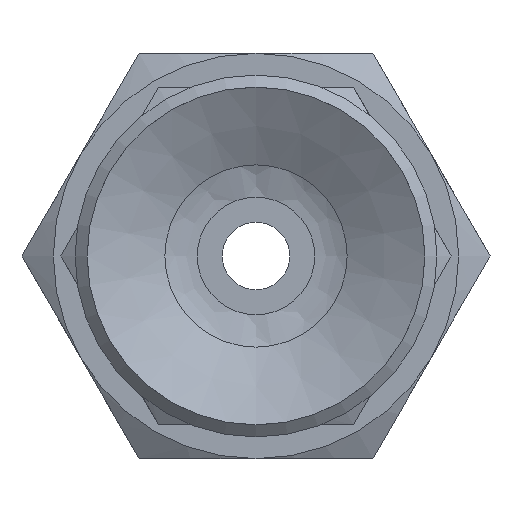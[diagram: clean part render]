
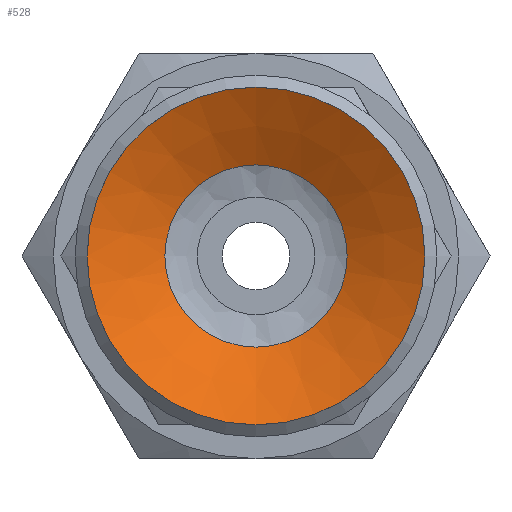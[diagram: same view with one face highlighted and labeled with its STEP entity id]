
A CAD part, front view. The second image highlights one B-rep face of the part: STEP entity #528.
In plain terms, the highlighted conical face has half-angle 61.39 degrees and reference radius 2.25 mm.
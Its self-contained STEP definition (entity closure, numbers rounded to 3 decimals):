
#528=ADVANCED_FACE('',(#744,#745),#746,.F.);
#744=FACE_BOUND('',#1023,.T.);
#745=FACE_OUTER_BOUND('',#1024,.T.);
#746=CONICAL_SURFACE('',#1025,2.25,1.071);
#1023=EDGE_LOOP('',(#1631));
#1024=EDGE_LOOP('',(#1632));
#1025=AXIS2_PLACEMENT_3D('',#1633,#1634,#1635);
#1631=ORIENTED_EDGE('',*,*,#1955,.T.);
#1632=ORIENTED_EDGE('',*,*,#1956,.T.);
#1633=CARTESIAN_POINT('',(0.0,1.5,0.0));
#1634=DIRECTION('',(-0.0,-1.0,0.));
#1635=DIRECTION('',(0.0,0.,-1.0));
#1955=EDGE_CURVE('',#2219,#2219,#2220,.T.);
#1956=EDGE_CURVE('',#2221,#2221,#2222,.T.);
#2219=VERTEX_POINT('',#2831);
#2220=CIRCLE('',#2832,2.698);
#2221=VERTEX_POINT('',#2833);
#2222=CIRCLE('',#2834,5.);
#2831=CARTESIAN_POINT('',(0.0,1.256,-2.698));
#2832=AXIS2_PLACEMENT_3D('',#3133,#3134,#3135);
#2833=CARTESIAN_POINT('',(0.0,0.,-5.));
#2834=AXIS2_PLACEMENT_3D('',#3136,#3137,#3138);
#3133=CARTESIAN_POINT('',(0.0,1.256,0.0));
#3134=DIRECTION('',(0.0,1.0,0.));
#3135=DIRECTION('',(0.0,0.,-1.0));
#3136=CARTESIAN_POINT('',(0.0,0.0,0.0));
#3137=DIRECTION('',(0.0,-1.0,0.));
#3138=DIRECTION('',(0.0,0.,-1.0));
